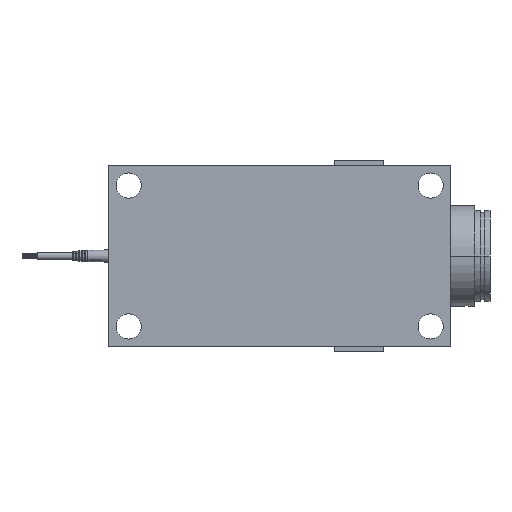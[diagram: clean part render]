
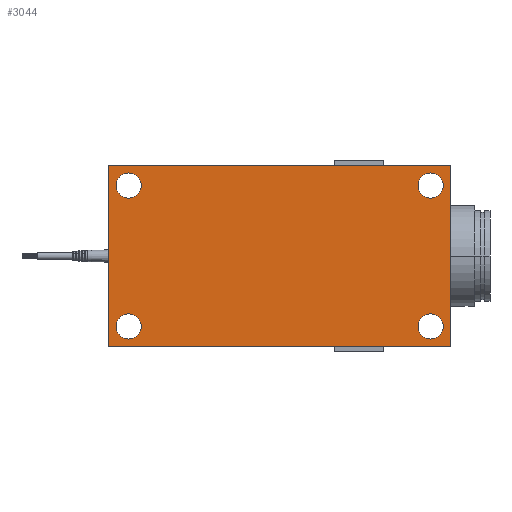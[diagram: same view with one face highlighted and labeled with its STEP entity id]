
A CAD part, front view. The second image highlights one B-rep face of the part: STEP entity #3044.
In plain terms, the highlighted planar face has unit normal (0, -1, 0).
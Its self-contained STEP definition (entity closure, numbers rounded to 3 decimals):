
#127 = DIRECTION ( 'NONE',  ( -1., 0., 0. ) ) ;
#332 = AXIS2_PLACEMENT_3D ( 'NONE', #8033, #11334, #17852 ) ;
#809 = EDGE_LOOP ( 'NONE', ( #1539, #16748 ) ) ;
#830 = CIRCLE ( 'NONE', #1839, 12.5 ) ;
#968 = EDGE_CURVE ( 'NONE', #15569, #13959, #8102, .T. ) ;
#993 = CARTESIAN_POINT ( 'NONE',  ( 150., 0., 82.5 ) ) ;
#1522 = PLANE ( 'NONE',  #332 ) ;
#1539 = ORIENTED_EDGE ( 'NONE', *, *, #18483, .F. ) ;
#1732 = EDGE_CURVE ( 'NONE', #7705, #4269, #14915, .T. ) ;
#1839 = AXIS2_PLACEMENT_3D ( 'NONE', #4118, #13937, #10632 ) ;
#1849 = CARTESIAN_POINT ( 'NONE',  ( 150., 0., -82.5 ) ) ;
#3030 = VERTEX_POINT ( 'NONE', #3118 ) ;
#3044 = ADVANCED_FACE ( 'NONE', ( #9628, #19448, #9748, #16138, #4943 ), #1522, .T. ) ;
#3118 = CARTESIAN_POINT ( 'NONE',  ( -150., 0., -82.5 ) ) ;
#3141 = CARTESIAN_POINT ( 'NONE',  ( -150., 0., 57.5 ) ) ;
#3158 = ORIENTED_EDGE ( 'NONE', *, *, #5397, .F. ) ;
#3473 = CARTESIAN_POINT ( 'NONE',  ( 150., 0., -57.5 ) ) ;
#3599 = VECTOR ( 'NONE', #127, 1000. ) ;
#4024 = AXIS2_PLACEMENT_3D ( 'NONE', #7859, #17283, #18887 ) ;
#4118 = CARTESIAN_POINT ( 'NONE',  ( -150., 0., -70. ) ) ;
#4269 = VERTEX_POINT ( 'NONE', #3141 ) ;
#4420 = CIRCLE ( 'NONE', #19780, 12.5 ) ;
#4600 = CARTESIAN_POINT ( 'NONE',  ( -170., 0., 90. ) ) ;
#4846 = EDGE_LOOP ( 'NONE', ( #13255, #12800 ) ) ;
#4943 = FACE_OUTER_BOUND ( 'NONE', #8745, .T. ) ;
#5280 = DIRECTION ( 'NONE',  ( 0., 0., -1. ) ) ;
#5290 = EDGE_CURVE ( 'NONE', #4269, #7705, #12400, .T. ) ;
#5397 = EDGE_CURVE ( 'NONE', #3030, #14119, #830, .T. ) ;
#5601 = AXIS2_PLACEMENT_3D ( 'NONE', #14155, #20758, #5731 ) ;
#5731 = DIRECTION ( 'NONE',  ( 0., 0., -1. ) ) ;
#6012 = DIRECTION ( 'NONE',  ( 0., 0., -1. ) ) ;
#6076 = VERTEX_POINT ( 'NONE', #17412 ) ;
#6214 = EDGE_LOOP ( 'NONE', ( #20237, #11657 ) ) ;
#6408 = CARTESIAN_POINT ( 'NONE',  ( 170., 0., 90. ) ) ;
#6530 = AXIS2_PLACEMENT_3D ( 'NONE', #13225, #11932, #8422 ) ;
#6651 = CIRCLE ( 'NONE', #8702, 12.5 ) ;
#7191 = CARTESIAN_POINT ( 'NONE',  ( -150., 0., -57.5 ) ) ;
#7292 = CARTESIAN_POINT ( 'NONE',  ( -150., 0., 70. ) ) ;
#7389 = CARTESIAN_POINT ( 'NONE',  ( -150., 0., -70. ) ) ;
#7503 = EDGE_CURVE ( 'NONE', #13615, #12447, #12337, .T. ) ;
#7705 = VERTEX_POINT ( 'NONE', #11159 ) ;
#7859 = CARTESIAN_POINT ( 'NONE',  ( 150., 0., -70. ) ) ;
#8033 = CARTESIAN_POINT ( 'NONE',  ( 0., 0., 0. ) ) ;
#8102 = CIRCLE ( 'NONE', #4024, 12.5 ) ;
#8228 = LINE ( 'NONE', #14747, #3599 ) ;
#8260 = CARTESIAN_POINT ( 'NONE',  ( 150., 0., -70. ) ) ;
#8422 = DIRECTION ( 'NONE',  ( 0., 0., -1. ) ) ;
#8534 = EDGE_CURVE ( 'NONE', #6076, #14637, #17421, .T. ) ;
#8702 = AXIS2_PLACEMENT_3D ( 'NONE', #8260, #18203, #5280 ) ;
#8745 = EDGE_LOOP ( 'NONE', ( #11727, #17781, #18710, #15194 ) ) ;
#9299 = CARTESIAN_POINT ( 'NONE',  ( 150., 0., 57.5 ) ) ;
#9371 = AXIS2_PLACEMENT_3D ( 'NONE', #7389, #14106, #10902 ) ;
#9438 = EDGE_CURVE ( 'NONE', #13959, #15569, #6651, .T. ) ;
#9628 = FACE_BOUND ( 'NONE', #6214, .T. ) ;
#9748 = FACE_BOUND ( 'NONE', #4846, .T. ) ;
#9868 = VERTEX_POINT ( 'NONE', #10784 ) ;
#10358 = CARTESIAN_POINT ( 'NONE',  ( -170., 0., 90. ) ) ;
#10384 = VECTOR ( 'NONE', #13666, 1000. ) ;
#10632 = DIRECTION ( 'NONE',  ( 0., 0., -1. ) ) ;
#10784 = CARTESIAN_POINT ( 'NONE',  ( 170., 0., -90. ) ) ;
#10902 = DIRECTION ( 'NONE',  ( 0., 0., -1. ) ) ;
#10910 = DIRECTION ( 'NONE',  ( 0., -1., 0. ) ) ;
#11159 = CARTESIAN_POINT ( 'NONE',  ( -150., 0., 82.5 ) ) ;
#11334 = DIRECTION ( 'NONE',  ( 0., -1., 0. ) ) ;
#11486 = EDGE_CURVE ( 'NONE', #18523, #9868, #15913, .T. ) ;
#11540 = EDGE_CURVE ( 'NONE', #14637, #18523, #15274, .T. ) ;
#11657 = ORIENTED_EDGE ( 'NONE', *, *, #1732, .F. ) ;
#11727 = ORIENTED_EDGE ( 'NONE', *, *, #11486, .F. ) ;
#11932 = DIRECTION ( 'NONE',  ( 0., -1., 0. ) ) ;
#12246 = CARTESIAN_POINT ( 'NONE',  ( 150., 0., 70. ) ) ;
#12337 = CIRCLE ( 'NONE', #6530, 12.5 ) ;
#12400 = CIRCLE ( 'NONE', #5601, 12.5 ) ;
#12408 = EDGE_CURVE ( 'NONE', #14119, #3030, #20950, .T. ) ;
#12447 = VERTEX_POINT ( 'NONE', #9299 ) ;
#12459 = DIRECTION ( 'NONE',  ( 0., -1., 0. ) ) ;
#12550 = EDGE_CURVE ( 'NONE', #9868, #6076, #8228, .T. ) ;
#12551 = DIRECTION ( 'NONE',  ( 0., 0., -1. ) ) ;
#12800 = ORIENTED_EDGE ( 'NONE', *, *, #9438, .F. ) ;
#13225 = CARTESIAN_POINT ( 'NONE',  ( 150., 0., 70. ) ) ;
#13255 = ORIENTED_EDGE ( 'NONE', *, *, #968, .F. ) ;
#13615 = VERTEX_POINT ( 'NONE', #993 ) ;
#13666 = DIRECTION ( 'NONE',  ( 1., 0., 0. ) ) ;
#13751 = ORIENTED_EDGE ( 'NONE', *, *, #12408, .F. ) ;
#13937 = DIRECTION ( 'NONE',  ( 0., -1., 0. ) ) ;
#13959 = VERTEX_POINT ( 'NONE', #3473 ) ;
#14104 = CARTESIAN_POINT ( 'NONE',  ( -170., 0., 90. ) ) ;
#14106 = DIRECTION ( 'NONE',  ( 0., -1., 0. ) ) ;
#14119 = VERTEX_POINT ( 'NONE', #7191 ) ;
#14155 = CARTESIAN_POINT ( 'NONE',  ( -150., 0., 70. ) ) ;
#14637 = VERTEX_POINT ( 'NONE', #4600 ) ;
#14747 = CARTESIAN_POINT ( 'NONE',  ( -170., 0., -90. ) ) ;
#14915 = CIRCLE ( 'NONE', #16622, 12.5 ) ;
#15143 = VECTOR ( 'NONE', #19032, 1000. ) ;
#15194 = ORIENTED_EDGE ( 'NONE', *, *, #12550, .F. ) ;
#15274 = LINE ( 'NONE', #10358, #10384 ) ;
#15569 = VERTEX_POINT ( 'NONE', #1849 ) ;
#15836 = VECTOR ( 'NONE', #16120, 1000. ) ;
#15913 = LINE ( 'NONE', #6408, #15836 ) ;
#16120 = DIRECTION ( 'NONE',  ( 0., 0., -1. ) ) ;
#16138 = FACE_BOUND ( 'NONE', #17308, .T. ) ;
#16622 = AXIS2_PLACEMENT_3D ( 'NONE', #7292, #10910, #6012 ) ;
#16748 = ORIENTED_EDGE ( 'NONE', *, *, #7503, .F. ) ;
#17062 = CARTESIAN_POINT ( 'NONE',  ( 170., 0., 90. ) ) ;
#17283 = DIRECTION ( 'NONE',  ( 0., -1., 0. ) ) ;
#17308 = EDGE_LOOP ( 'NONE', ( #3158, #13751 ) ) ;
#17412 = CARTESIAN_POINT ( 'NONE',  ( -170., 0., -90. ) ) ;
#17421 = LINE ( 'NONE', #14104, #15143 ) ;
#17781 = ORIENTED_EDGE ( 'NONE', *, *, #11540, .F. ) ;
#17852 = DIRECTION ( 'NONE',  ( 0., 0., -1. ) ) ;
#18203 = DIRECTION ( 'NONE',  ( 0., -1., 0. ) ) ;
#18483 = EDGE_CURVE ( 'NONE', #12447, #13615, #4420, .T. ) ;
#18523 = VERTEX_POINT ( 'NONE', #17062 ) ;
#18710 = ORIENTED_EDGE ( 'NONE', *, *, #8534, .F. ) ;
#18887 = DIRECTION ( 'NONE',  ( 0., 0., -1. ) ) ;
#19032 = DIRECTION ( 'NONE',  ( 0., 0., 1. ) ) ;
#19448 = FACE_BOUND ( 'NONE', #809, .T. ) ;
#19780 = AXIS2_PLACEMENT_3D ( 'NONE', #12246, #12459, #12551 ) ;
#20237 = ORIENTED_EDGE ( 'NONE', *, *, #5290, .F. ) ;
#20758 = DIRECTION ( 'NONE',  ( 0., -1., 0. ) ) ;
#20950 = CIRCLE ( 'NONE', #9371, 12.5 ) ;
